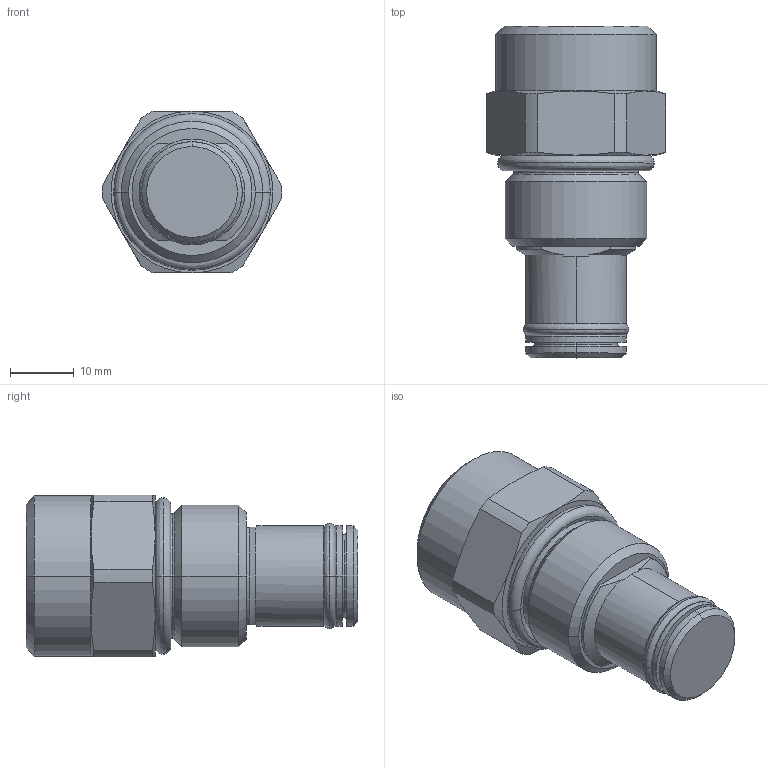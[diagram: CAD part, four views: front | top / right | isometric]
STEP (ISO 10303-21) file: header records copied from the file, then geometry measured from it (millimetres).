
FILE_DESCRIPTION((''),'2;1');
FILE_NAME('5209000_SW0001','2009-01-29T',('JCS'),(''),'PRO/ENGINEER BY PARAMETRIC TECHNOLOGY CORPORATION, 2008010','PRO/ENGINEER BY PARAMETRIC TECHNOLOGY CORPORATION, 2008010','');
FILE_SCHEMA(('CONFIG_CONTROL_DESIGN'));
Length unit declared in the file: inch
Products named in the file (1): 5209000_SW0001
Bounding box: 28.19 x 52.1 x 25.4 mm (x, y, z)
Volume: 19049.1 mm3; surface area: 6034 mm2
Topology: 4 solids, 5 shells, 93 faces, 202 edges, 118 vertices
Faces by surface type: cylinder 26, plane 19, cone 18, revolution 16, torus 14
Entity records: 3208 total; most frequent: CARTESIAN_POINT 1125, DIRECTION 446, ORIENTED_EDGE 404, EDGE_CURVE 202, AXIS2_PLACEMENT_3D 189, VERTEX_POINT 118, CIRCLE 112, EDGE_LOOP 98
